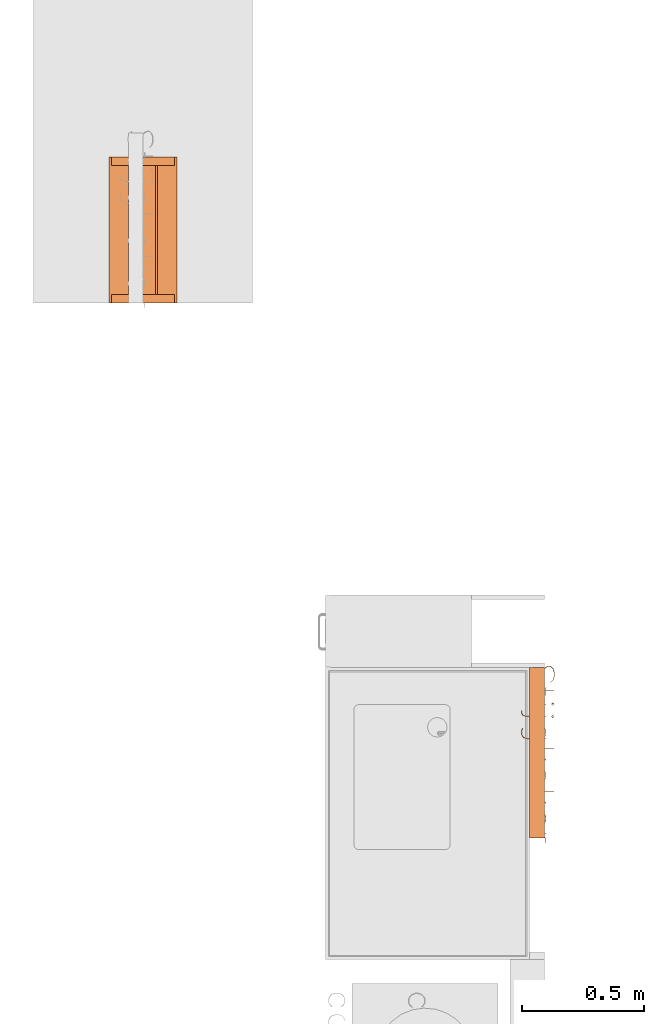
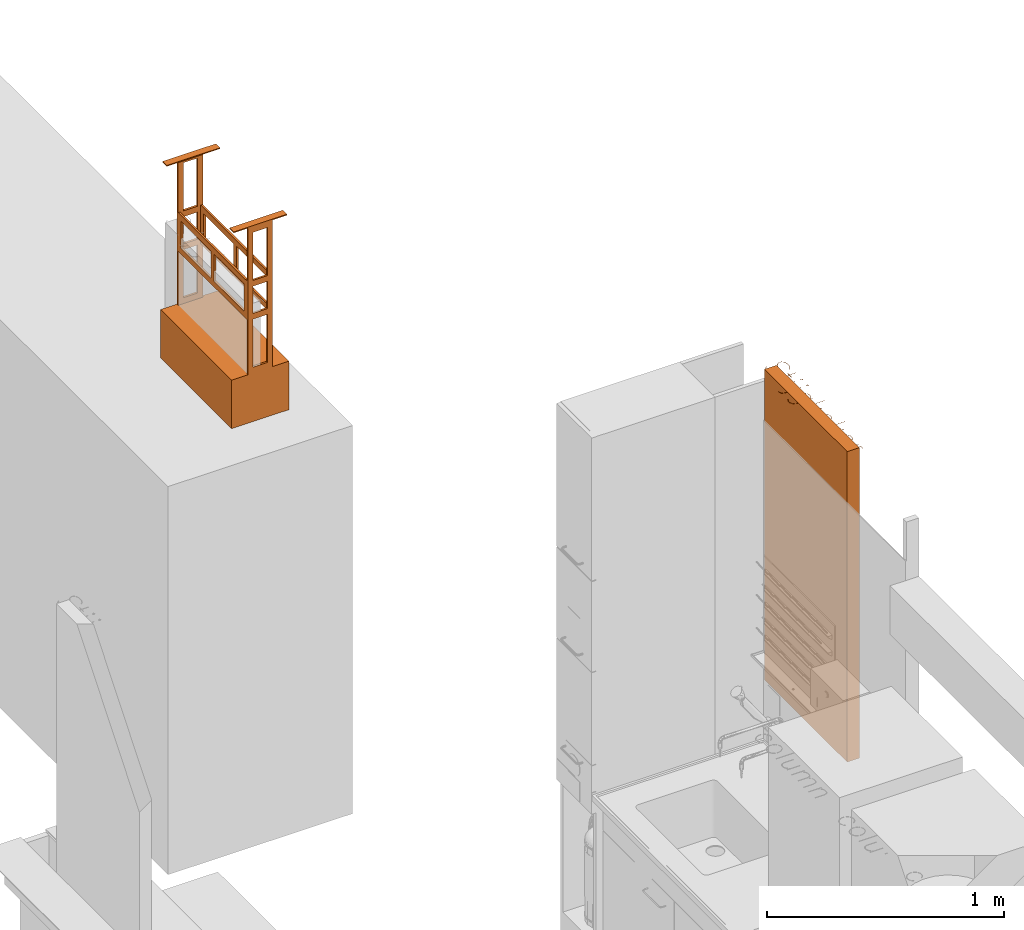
# One storey, part 25 of 43: 2 proxies.
"""IFC2X3 building model written with IfcOpenShell, lengths in metres."""

from ifc_helpers import new_model, entity, si_unit, converted_unit, derived_unit, direction, frame, origin, place, context, subcontext, project, spatial, face_set, faceted_brep, surface_model, source, transform, mapped, material, material_list, type_object, type_shapes, element, save


model = new_model("IFC2X3")

# Units and contexts
model_context = context("Model", 3, precision=1e-05, world=origin(), true_north=direction((6.12303176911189e-17, 1.0)))
body_context = subcontext(model_context, "Body", "Model", "MODEL_VIEW")
ifc_project = project(units=[si_unit("LENGTHUNIT", "METRE"), si_unit("AREAUNIT", "SQUARE_METRE"), si_unit("VOLUMEUNIT", "CUBIC_METRE"), converted_unit("PLANEANGLEUNIT", "DEGREE", entity("IfcRatioMeasure", 0.0174532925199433), si_unit("PLANEANGLEUNIT", "RADIAN"), dimensions=[0, 0, 0, 0, 0, 0, 0]), si_unit("MASSUNIT", "GRAM", prefix="KILO"), derived_unit("MASSDENSITYUNIT", [(si_unit("MASSUNIT", "GRAM", prefix="KILO"), 1), (si_unit("LENGTHUNIT", "METRE"), -3)]), derived_unit("MOMENTOFINERTIAUNIT", [(si_unit("LENGTHUNIT", "METRE"), 4)]), si_unit("TIMEUNIT", "SECOND"), si_unit("FREQUENCYUNIT", "HERTZ"), si_unit("THERMODYNAMICTEMPERATUREUNIT", "DEGREE_CELSIUS"), derived_unit("THERMALTRANSMITTANCEUNIT", [(si_unit("MASSUNIT", "GRAM", prefix="KILO"), 1), (si_unit("THERMODYNAMICTEMPERATUREUNIT", "KELVIN"), -1), (si_unit("TIMEUNIT", "SECOND"), -3)]), derived_unit("VOLUMETRICFLOWRATEUNIT", [(si_unit("LENGTHUNIT", "METRE"), 3), (si_unit("TIMEUNIT", "SECOND"), -1)]), si_unit("ELECTRICCURRENTUNIT", "AMPERE"), si_unit("ELECTRICVOLTAGEUNIT", "VOLT"), si_unit("POWERUNIT", "WATT"), si_unit("FORCEUNIT", "NEWTON", prefix="KILO"), si_unit("ILLUMINANCEUNIT", "LUX"), si_unit("LUMINOUSFLUXUNIT", "LUMEN"), si_unit("LUMINOUSINTENSITYUNIT", "CANDELA"), derived_unit("USERDEFINED", [(si_unit("MASSUNIT", "GRAM", prefix="KILO"), -1), (si_unit("LENGTHUNIT", "METRE"), -2), (si_unit("TIMEUNIT", "SECOND"), 3), (si_unit("LUMINOUSFLUXUNIT", "LUMEN"), 1)]), derived_unit("LINEARVELOCITYUNIT", [(si_unit("LENGTHUNIT", "METRE"), 1), (si_unit("TIMEUNIT", "SECOND"), -1)]), si_unit("PRESSUREUNIT", "PASCAL"), derived_unit("USERDEFINED", [(si_unit("LENGTHUNIT", "METRE"), -2), (si_unit("MASSUNIT", "GRAM", prefix="KILO"), 1), (si_unit("TIMEUNIT", "SECOND"), -2)]), derived_unit("LINEARFORCEUNIT", [(si_unit("MASSUNIT", "GRAM", prefix="KILO"), 1), (si_unit("LENGTHUNIT", "METRE"), 1), (si_unit("TIMEUNIT", "SECOND"), -2), (si_unit("LENGTHUNIT", "METRE"), -1)]), derived_unit("PLANARFORCEUNIT", [(si_unit("MASSUNIT", "GRAM", prefix="KILO"), 1), (si_unit("LENGTHUNIT", "METRE"), 1), (si_unit("TIMEUNIT", "SECOND"), -2), (si_unit("LENGTHUNIT", "METRE"), -2)])], contexts=[model_context])

# Site, building, storey
site_placement = place(None, origin())
site = spatial("IfcSite", under=ifc_project, at=site_placement, Name="Default", CompositionType="ELEMENT")
building_placement = place(site_placement, origin())
building = spatial("IfcBuilding", under=site, at=building_placement, CompositionType="ELEMENT")
storey_placement = place(building_placement, frame((0.0, 0.0, 3.0)))
storey = spatial("IfcBuildingStorey", under=building, at=storey_placement, Name="01 OG", CompositionType="ELEMENT", Elevation=3.0)

# Proxies
ifc_material_1 = material(Name="dh_Weiß")
ifc_material_2 = material(Name="dh_EZ blau")
ifc_material_list = material_list([ifc_material_2, ifc_material_1])
building_element_proxy_type_1 = type_object("IfcBuildingElementProxyType", Name="dh_Doppel_ MEK:DMEK 60", PredefinedType="NOTDEFINED", material=ifc_material_list)
shared_shape_1 = source(origin(), body_context, "Body", "Brep", [
    faceted_brep([(0.00999999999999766, 0.2, 1.00500000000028), (0.00999999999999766, 0.0800000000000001, 1.00500000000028), (0.00999999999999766, 0.0800000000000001, 0.727500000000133), (0.00999999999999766, 0.0899999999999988, 0.727500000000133), (0.00999999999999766, 0.0899999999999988, 0.527500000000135), (0.00999999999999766, 0.0800000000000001, 0.527500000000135), (0.00999999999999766, 0.0800000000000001, 0.249999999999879), (0.00999999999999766, 0.2, 0.249999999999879), (0.00999999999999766, 0.2, 0.527500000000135), (0.00999999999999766, 0.189999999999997, 0.527500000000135), (0.00999999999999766, 0.189999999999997, 0.727500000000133), (0.00999999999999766, 0.2, 0.727500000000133), (0.00999999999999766, 0.175, 0.975000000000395), (0.00999999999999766, 0.175, 0.727500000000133), (0.00999999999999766, 0.105, 0.727500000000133), (0.00999999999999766, 0.105, 0.975000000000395), (0.00999999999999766, 0.175, 0.527500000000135), (0.00999999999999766, 0.175, 0.27999999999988), (0.00999999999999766, 0.105, 0.279999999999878), (0.00999999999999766, 0.105, 0.527500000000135), (0.00999999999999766, 0.175000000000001, 0.697500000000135), (0.00999999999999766, 0.175000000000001, 0.557500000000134), (0.00999999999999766, 0.105000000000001, 0.557500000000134), (0.00999999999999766, 0.105000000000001, 0.697500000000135), (0.0, 0.2, 1.00500000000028), (0.0, 0.2, 0.249999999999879), (0.0, 0.0800000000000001, 0.249999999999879), (0.0, 0.0800000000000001, 1.00500000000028), (0.0, 0.175, 0.975000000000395), (0.0, 0.105, 0.975000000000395), (0.0, 0.105, 0.727500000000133), (0.0, 0.175, 0.727500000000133), (0.0, 0.175, 0.527500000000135), (0.0, 0.105, 0.527500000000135), (0.0, 0.105, 0.279999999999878), (0.0, 0.175, 0.27999999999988), (0.0, 0.175000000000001, 0.697500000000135), (0.0, 0.105000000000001, 0.697500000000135), (0.0, 0.105000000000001, 0.557500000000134), (0.0, 0.175000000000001, 0.557500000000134), (0.589999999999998, 0.0800000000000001, 0.527500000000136), (0.589999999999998, 0.0800000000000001, 0.249999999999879), (0.6, 0.0800000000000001, 0.249999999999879), (0.6, 0.0800000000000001, 1.00500000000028), (0.589999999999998, 0.0800000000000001, 1.00500000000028), (0.589999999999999, 0.0800000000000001, 0.727500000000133), (0.312500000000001, 0.0800000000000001, 0.697500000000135), (0.564999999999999, 0.0800000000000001, 0.697500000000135), (0.564999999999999, 0.0800000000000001, 0.557500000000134), (0.312500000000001, 0.0800000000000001, 0.557500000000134), (0.0349999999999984, 0.0800000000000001, 0.697500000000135), (0.287500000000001, 0.0800000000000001, 0.697500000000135), (0.287500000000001, 0.0800000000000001, 0.557500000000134), (0.0349999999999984, 0.0800000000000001, 0.557500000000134), (0.589999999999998, 0.2, 0.727500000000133), (0.589999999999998, 0.2, 1.00500000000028), (0.6, 0.2, 1.00500000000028), (0.6, 0.2, 0.249999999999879), (0.589999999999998, 0.2, 0.249999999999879), (0.589999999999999, 0.2, 0.527500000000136), (0.0349999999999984, 0.2, 0.697500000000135), (0.0349999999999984, 0.2, 0.557500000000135), (0.287500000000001, 0.2, 0.557500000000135), (0.287500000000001, 0.2, 0.697500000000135), (0.312500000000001, 0.2, 0.697500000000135), (0.312500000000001, 0.2, 0.557500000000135), (0.564999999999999, 0.2, 0.557500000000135), (0.564999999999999, 0.2, 0.697500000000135), (0.589999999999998, 0.0899999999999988, 0.727500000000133), (0.589999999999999, 0.0899999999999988, 0.527500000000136), (0.312500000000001, 0.0899999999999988, 0.697500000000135), (0.312500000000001, 0.0899999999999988, 0.557500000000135), (0.564999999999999, 0.0899999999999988, 0.557500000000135), (0.564999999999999, 0.0899999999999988, 0.697500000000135), (0.0349999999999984, 0.0899999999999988, 0.697500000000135), (0.0349999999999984, 0.0899999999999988, 0.557500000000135), (0.287500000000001, 0.0899999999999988, 0.557500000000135), (0.287500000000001, 0.0899999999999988, 0.697500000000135), (0.589999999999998, 0.189999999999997, 0.527500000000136), (0.589999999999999, 0.189999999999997, 0.727500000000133), (0.0349999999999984, 0.189999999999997, 0.697500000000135), (0.287500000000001, 0.189999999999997, 0.697500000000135), (0.287500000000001, 0.189999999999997, 0.557500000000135), (0.0349999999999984, 0.189999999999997, 0.557500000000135), (0.312500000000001, 0.189999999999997, 0.697500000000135), (0.564999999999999, 0.189999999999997, 0.697500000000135), (0.564999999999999, 0.189999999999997, 0.557500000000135), (0.312500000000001, 0.189999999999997, 0.557500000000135), (0.6, 0.175, 0.975000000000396), (0.6, 0.175, 0.727500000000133), (0.6, 0.105, 0.727500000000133), (0.6, 0.105, 0.975000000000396), (0.6, 0.175000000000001, 0.697500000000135), (0.6, 0.175000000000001, 0.557500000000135), (0.6, 0.105000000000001, 0.557500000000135), (0.6, 0.105000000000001, 0.697500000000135), (0.6, 0.105, 0.279999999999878), (0.6, 0.105, 0.527500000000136), (0.6, 0.175, 0.527500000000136), (0.6, 0.175, 0.27999999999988), (0.589999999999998, 0.175, 0.975000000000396), (0.589999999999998, 0.105, 0.975000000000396), (0.589999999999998, 0.105, 0.727500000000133), (0.589999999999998, 0.175, 0.727500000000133), (0.589999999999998, 0.175000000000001, 0.697500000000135), (0.589999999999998, 0.105000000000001, 0.697500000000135), (0.589999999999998, 0.105000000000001, 0.557500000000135), (0.589999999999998, 0.175000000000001, 0.557500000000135), (0.589999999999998, 0.105, 0.279999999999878), (0.589999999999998, 0.175, 0.27999999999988), (0.589999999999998, 0.175, 0.527500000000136), (0.589999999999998, 0.105, 0.527500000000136)], [[[0, 1, 2, 3, 4, 5, 6, 7, 8, 9, 10, 11], [12, 13, 14, 15], [16, 17, 18, 19], [20, 21, 22, 23]], [[24, 25, 26, 27], [28, 29, 30, 31], [32, 33, 34, 35], [36, 37, 38, 39]], [[1, 0, 24, 27]], [[27, 26, 6, 5, 40, 41, 42, 43, 44, 45, 2, 1], [46, 47, 48, 49], [50, 51, 52, 53]], [[7, 6, 26, 25]], [[25, 24, 0, 11, 54, 55, 56, 57, 58, 59, 8, 7], [60, 61, 62, 63], [64, 65, 66, 67]], [[13, 12, 28, 31]], [[14, 13, 31, 30]], [[15, 14, 30, 29]], [[12, 15, 29, 28]], [[17, 16, 32, 35]], [[18, 17, 35, 34]], [[19, 18, 34, 33]], [[16, 19, 33, 32]], [[21, 20, 36, 39]], [[22, 21, 39, 38]], [[23, 22, 38, 37]], [[20, 23, 37, 36]], [[3, 68, 69, 4], [70, 71, 72, 73], [74, 75, 76, 77]], [[40, 5, 4, 69]], [[2, 45, 68, 3]], [[47, 46, 70, 73]], [[48, 47, 73, 72]], [[49, 48, 72, 71]], [[46, 49, 71, 70]], [[51, 50, 74, 77]], [[52, 51, 77, 76]], [[53, 52, 76, 75]], [[50, 53, 75, 74]], [[9, 78, 79, 10], [80, 81, 82, 83], [84, 85, 86, 87]], [[78, 9, 8, 59]], [[10, 79, 54, 11]], [[81, 80, 60, 63]], [[82, 81, 63, 62]], [[83, 82, 62, 61]], [[80, 83, 61, 60]], [[85, 84, 64, 67]], [[86, 85, 67, 66]], [[87, 86, 66, 65]], [[84, 87, 65, 64]], [[42, 57, 56, 43], [88, 89, 90, 91], [92, 93, 94, 95], [96, 97, 98, 99]], [[44, 55, 54, 79, 78, 59, 58, 41, 40, 69, 68, 45], [100, 101, 102, 103], [104, 105, 106, 107], [108, 109, 110, 111]], [[57, 42, 41, 58]], [[43, 56, 55, 44]], [[89, 88, 100, 103]], [[90, 89, 103, 102]], [[91, 90, 102, 101]], [[88, 91, 101, 100]], [[93, 92, 104, 107]], [[94, 93, 107, 106]], [[95, 94, 106, 105]], [[92, 95, 105, 104]], [[97, 96, 108, 111]], [[98, 97, 111, 110]], [[99, 98, 110, 109]], [[96, 99, 109, 108]]]),
    faceted_brep([(0.564999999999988, 0.0100000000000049, 1.01000000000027), (0.600000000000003, 0.0100000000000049, 1.01000000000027), (0.600000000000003, 0.270000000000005, 1.01000000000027), (0.564999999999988, 0.270000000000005, 1.01000000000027), (0.564999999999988, 0.0100000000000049, 1.00500000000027), (0.600000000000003, 0.0100000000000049, 1.00500000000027), (0.600000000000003, 0.270000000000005, 1.00500000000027), (0.564999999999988, 0.270000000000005, 1.00500000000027)], [[[0, 1, 2, 3]], [[1, 0, 4, 5]], [[2, 1, 5, 6]], [[3, 2, 6, 7]], [[0, 3, 7, 4]], [[4, 7, 6, 5]]]),
    faceted_brep([(0.034999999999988, 0.270000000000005, 1.00500000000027), (0.034999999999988, 0.0100000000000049, 1.00500000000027), (0.0, 0.0100000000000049, 1.00500000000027), (0.0, 0.270000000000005, 1.00500000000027), (0.0, 0.270000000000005, 1.01000000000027), (0.034999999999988, 0.270000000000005, 1.01000000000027), (0.0, 0.0100000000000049, 1.01000000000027), (0.034999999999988, 0.0100000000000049, 1.01000000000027)], [[[0, 1, 2, 3]], [[4, 5, 0, 3]], [[6, 4, 3, 2]], [[7, 6, 2, 1]], [[5, 7, 1, 0]], [[5, 4, 6, 7]]]),
    faceted_brep([(0.0, 0.2, 0.249999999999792), (0.0100000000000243, 0.2, 0.249999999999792), (0.590000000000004, 0.2, 0.249999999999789), (0.600000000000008, 0.2, 0.249999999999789), (0.600000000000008, 0.28, 0.249999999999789), (0.0, 0.28, 0.249999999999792), (0.0, 0.2, 0.244999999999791), (0.0, 0.28, 0.244999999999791), (0.600000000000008, 0.28, 0.244999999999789), (0.600000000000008, 0.2, 0.244999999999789), (0.590000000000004, 0.2, 0.244999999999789), (0.0100000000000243, 0.2, 0.244999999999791)], [[[0, 1, 2, 3, 4, 5]], [[6, 7, 8, 9, 10, 11]], [[0, 5, 7, 6]], [[5, 4, 8, 7]], [[4, 3, 9, 8]], [[3, 2, 10, 9]], [[2, 1, 11, 10]], [[1, 0, 6, 11]]]),
    faceted_brep([(0.6, 0.280000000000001, 0.245000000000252), (0.6, 0.200000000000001, 0.245000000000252), (0.6, 0.200000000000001, 0.00500000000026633), (0.6, 0.280000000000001, 0.00500000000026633), (0.0, 0.280000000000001, 0.245000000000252), (0.0, 0.280000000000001, 0.00500000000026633), (0.0, 0.200000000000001, 0.00500000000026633), (0.0, 0.200000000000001, 0.245000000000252)], [[[0, 1, 2, 3]], [[4, 5, 6, 7]], [[0, 3, 5, 4]], [[3, 2, 6, 5]], [[2, 1, 7, 6]], [[1, 0, 4, 7]]]),
    faceted_brep([(0.600000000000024, 0.08, 0.249999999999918), (0.600000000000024, 0.2, 0.249999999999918), (0.590000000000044, 0.2, 0.249999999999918), (0.590000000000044, 0.08, 0.249999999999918), (0.600000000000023, 0.08, 0.00500000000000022), (0.590000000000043, 0.08, 0.00500000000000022), (0.590000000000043, 0.2, 0.00500000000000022), (0.600000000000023, 0.2, 0.00500000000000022)], [[[0, 1, 2, 3]], [[4, 5, 6, 7]], [[1, 0, 4, 7]], [[2, 1, 7, 6]], [[3, 2, 6, 5]], [[0, 3, 5, 4]]]),
    faceted_brep([(0.0100000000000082, 0.2, 0.24999999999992), (0.0100000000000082, 0.08, 0.24999999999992), (0.0100000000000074, 0.08, 0.00500000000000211), (0.0100000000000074, 0.2, 0.00500000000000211), (0.0, 0.2, 0.24999999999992), (0.0, 0.2, 0.00500000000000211), (0.0, 0.08, 0.24999999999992), (0.0, 0.08, 0.00500000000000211)], [[[0, 1, 2, 3]], [[4, 0, 3, 5]], [[6, 4, 5, 7]], [[1, 6, 7, 2]], [[2, 7, 5, 3]], [[1, 0, 4, 6]]]),
    faceted_brep([(0.590000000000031, 0.08, 0.249999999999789), (0.590000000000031, 0.2, 0.249999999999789), (0.0100000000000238, 0.2, 0.249999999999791), (0.0100000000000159, 0.08, 0.249999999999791), (0.590000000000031, 0.08, 0.244999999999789), (0.0100000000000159, 0.08, 0.244999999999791), (0.0100000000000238, 0.2, 0.244999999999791), (0.590000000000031, 0.2, 0.244999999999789)], [[[0, 1, 2, 3]], [[4, 5, 6, 7]], [[1, 0, 4, 7]], [[2, 1, 7, 6]], [[3, 2, 6, 5]], [[0, 3, 5, 4]]]),
    faceted_brep([(0.0, 0.0, 0.0), (0.0, 0.0799999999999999, 0.0), (0.0, 0.28, 0.0), (0.600000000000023, 0.28, 0.0), (0.600000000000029, 0.0799999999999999, 0.0), (0.600000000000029, 0.0, 0.0), (0.0, 0.0, 0.00500000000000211), (0.600000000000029, 0.0, 0.00500000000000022), (0.600000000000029, 0.0799999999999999, 0.00500000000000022), (0.600000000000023, 0.28, 0.00500000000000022), (0.0, 0.28, 0.00500000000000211), (0.0, 0.0799999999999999, 0.00500000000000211)], [[[0, 1, 2, 3, 4, 5]], [[6, 7, 8, 9, 10, 11]], [[7, 6, 0, 5]], [[8, 7, 5, 4]], [[9, 8, 4, 3]], [[10, 9, 3, 2]], [[11, 10, 2, 1]], [[6, 11, 1, 0]]]),
    faceted_brep([(0.0, 0.08, 0.249999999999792), (0.0, 0.0, 0.249999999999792), (0.600000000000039, 0.0, 0.249999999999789), (0.600000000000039, 0.08, 0.249999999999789), (0.590000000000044, 0.08, 0.249999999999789), (0.0100000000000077, 0.08, 0.249999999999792), (0.0, 0.08, 0.244999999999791), (0.0100000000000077, 0.08, 0.244999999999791), (0.590000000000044, 0.08, 0.244999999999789), (0.600000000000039, 0.08, 0.244999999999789), (0.600000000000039, 0.0, 0.244999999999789), (0.0, 0.0, 0.244999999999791)], [[[0, 1, 2, 3, 4, 5]], [[6, 7, 8, 9, 10, 11]], [[1, 0, 6, 11]], [[2, 1, 11, 10]], [[3, 2, 10, 9]], [[4, 3, 9, 8]], [[5, 4, 8, 7]], [[0, 5, 7, 6]]]),
    faceted_brep([(0.6, 0.0, 0.24500000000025), (0.6, 0.0, 0.00500000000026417), (0.6, 0.08, 0.00500000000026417), (0.6, 0.08, 0.24500000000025), (0.0, 0.0, 0.24500000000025), (0.0, 0.08, 0.24500000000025), (0.0, 0.08, 0.00500000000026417), (0.0, 0.0, 0.00500000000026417)], [[[0, 1, 2, 3]], [[4, 5, 6, 7]], [[1, 0, 4, 7]], [[2, 1, 7, 6]], [[3, 2, 6, 5]], [[0, 3, 5, 4]]]),
])
type_shapes(building_element_proxy_type_1, [shared_shape_1])
proxy_1_placement = place(storey_placement, frame((15.54, 17.5240000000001, 2.88999999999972), z_axis=(0.0, 0.0, 1.0), x_axis=(0.0, 1.0, 0.0)))
element("IfcBuildingElementProxy", 1, at=proxy_1_placement, inside=storey, type_object=building_element_proxy_type_1, material=ifc_material_1, Name="dh_Doppel_ MEK:DMEK 60", ObjectType="dh_Doppel_ MEK:DMEK 60", context=body_context, shape_type="MappedRepresentation", body=[
    mapped(shared_shape_1, transform((0.0, 0.0, 0.0), scale=1.0)),
])
ifc_material_3 = material(Name="dh_Stellfläche")
building_element_proxy_type_2 = type_object("IfcBuildingElementProxyType", Name="dh_Gerät_Stellfläche Bestand:Nutzergerät", PredefinedType="NOTDEFINED", material=ifc_material_3)
shared_shape_2 = source(origin(), body_context, "Body", "SurfaceModel", [
    surface_model("IfcFaceBasedSurfaceModel", [(-0.355113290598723, -0.0453817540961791, 1.605), (-0.356700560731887, -0.0470458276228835, 1.605), (-0.346946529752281, -0.0567998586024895, 1.605), (-0.332277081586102, -0.0616384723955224, 1.605), (-0.31294822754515, -0.0616384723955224, 1.605), (-0.298278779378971, -0.0567998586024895, 1.605), (-0.288166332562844, -0.0466618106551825, 1.605), (-0.288166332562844, -0.0314547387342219, 1.605), (-0.293081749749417, -0.0214446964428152, 1.605), (-0.298073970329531, -0.0163500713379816, 1.605), (-0.307904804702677, -0.0115114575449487, 1.605), (-0.336450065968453, -0.00188543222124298, 1.605), (-0.345692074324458, 0.00295318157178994, 1.605), (-0.35019787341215, 0.00745898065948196, 1.605), (-0.354857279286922, 0.0166497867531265, 1.605), (-0.354857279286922, 0.0255845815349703, 1.605), (-0.345820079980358, 0.0347241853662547, 1.605), (-0.331944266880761, 0.0393579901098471, 1.605), (-0.313204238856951, 0.0393579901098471, 1.605), (-0.299328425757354, 0.0347241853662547, 1.605), (-0.290112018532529, 0.0252005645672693, 1.605), (-0.288447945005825, 0.0268646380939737, 1.605), (-0.298278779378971, 0.0366186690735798, 1.605), (-0.31294822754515, 0.041585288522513, 1.605), (-0.332277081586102, 0.041585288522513, 1.605), (-0.346946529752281, 0.0366186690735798, 1.605), (-0.356982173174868, 0.0264550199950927, 1.605), (-0.356982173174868, 0.016112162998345, 1.605), (-0.352117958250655, 0.00610212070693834, 1.605), (-0.347074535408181, 0.00100749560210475, 1.605), (-0.337243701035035, -0.00383111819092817, 1.605), (-0.308698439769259, -0.0134571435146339, 1.605), (-0.299456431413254, -0.0182957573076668, 1.605), (-0.294950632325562, -0.0228015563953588, 1.605), (-0.29036802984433, -0.0320691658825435, 1.605), (-0.29036802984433, -0.0457657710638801, 1.605), (-0.299328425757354, -0.0549053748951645, 1.605), (-0.313204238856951, -0.0595647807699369, 1.605), (-0.331944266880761, -0.0595647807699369, 1.605), (-0.345820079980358, -0.0549053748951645, 1.605), (-0.230691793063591, -0.0616384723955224, 1.605), (-0.230691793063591, -0.0595647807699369, 1.605), (-0.239908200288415, -0.0595647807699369, 1.605), (-0.248740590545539, -0.055084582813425, 1.605), (-0.253399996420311, -0.0413879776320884, 1.605), (-0.253399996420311, 0.00533408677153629, 1.605), (-0.235402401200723, 0.00533408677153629, 1.605), (-0.235402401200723, 0.00745898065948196, 1.605), (-0.253399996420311, 0.00745898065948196, 1.605), (-0.253399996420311, 0.0399468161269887, 1.605), (-0.255576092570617, 0.0399468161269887, 1.605), (-0.255576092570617, 0.00745898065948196, 1.605), (-0.268735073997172, 0.00745898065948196, 1.605), (-0.268735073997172, 0.00533408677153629, 1.605), (-0.255576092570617, 0.00533408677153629, 1.605), (-0.255576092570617, -0.0416439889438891, 1.605), (-0.250660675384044, -0.0566974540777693, 1.605), (-0.240445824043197, -0.0616384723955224, 1.605), (-0.201327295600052, -0.0599999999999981, 1.605), (-0.199202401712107, -0.0599999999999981, 1.605), (-0.199202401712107, 0.00666534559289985, 1.605), (-0.201327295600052, 0.00666534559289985, 1.605), (-0.173294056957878, -0.0922318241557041, 1.605), (-0.173294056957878, -0.0944079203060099, 1.605), (-0.163744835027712, -0.0944079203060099, 1.605), (-0.153581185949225, -0.0893644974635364, 1.605), (-0.148665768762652, -0.0744390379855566, 1.605), (-0.148665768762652, 0.00651173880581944, 1.605), (-0.150867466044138, 0.00651173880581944, 1.605), (-0.150867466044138, -0.0741574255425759, 1.605), (-0.15550127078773, -0.087700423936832, 1.605), (-0.164333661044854, -0.0922318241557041, 1.605), (-0.100049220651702, -0.0875980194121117, 1.605), (-0.101175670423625, -0.0895181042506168, 1.605), (-0.0913448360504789, -0.0944079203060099, 1.605), (-0.0765473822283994, -0.0944079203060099, 1.605), (-0.066639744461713, -0.0895181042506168, 1.605), (-0.0615963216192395, -0.0843466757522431, 1.605), (-0.0566809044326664, -0.069728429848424, 1.605), (-0.0566809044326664, 0.00615332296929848, 1.605), (-0.0588826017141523, 0.00615332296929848, 1.605), (-0.0588826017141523, -0.00552079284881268, 1.605), (-0.066639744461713, 0.0023387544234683, 1.605), (-0.0765473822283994, 0.00717736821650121, 1.605), (-0.0913448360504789, 0.00717736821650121, 1.605), (-0.101303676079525, 0.0023387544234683, 1.605), (-0.111057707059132, -0.00756888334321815, 1.605), (-0.115973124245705, -0.0221871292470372, 1.605), (-0.115973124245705, -0.0319923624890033, 1.605), (-0.111057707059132, -0.0465850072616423, 1.605), (-0.101303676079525, -0.0564926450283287, 1.605), (-0.0913448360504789, -0.0612544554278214, 1.605), (-0.0765473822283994, -0.0612544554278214, 1.605), (-0.066639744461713, -0.0564926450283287, 1.605), (-0.0588826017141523, -0.0485818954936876, 1.605), (-0.0588826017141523, -0.0694724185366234, 1.605), (-0.0634652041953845, -0.0832970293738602, 1.605), (-0.0679710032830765, -0.0875980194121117, 1.605), (-0.0770594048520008, -0.0922318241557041, 1.605), (-0.0908072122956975, -0.0922318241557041, 1.605), (-0.0588826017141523, -0.0452537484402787, 1.605), (-0.0679710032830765, -0.0542909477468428, 1.605), (-0.0770594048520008, -0.0588735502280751, 1.605), (-0.0908072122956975, -0.0588735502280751, 1.605), (-0.0999212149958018, -0.0542909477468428, 1.605), (-0.109214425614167, -0.0451257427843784, 1.605), (-0.113797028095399, -0.0312499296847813, 1.605), (-0.113797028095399, -0.0220079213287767, 1.605), (-0.109214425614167, -0.00813210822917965, 1.605), (-0.0999212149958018, 0.000956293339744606, 1.605), (-0.0908072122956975, 0.00561569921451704, 1.605), (-0.0770594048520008, 0.00561569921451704, 1.605), (-0.0679710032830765, 0.000956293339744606, 1.605), (-0.0588826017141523, -0.00800410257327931, 1.605), (-0.0178183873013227, -0.0599999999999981, 1.605), (-0.0156934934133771, -0.0599999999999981, 1.605), (-0.0156934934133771, -0.0413367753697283, 1.605), (0.00230410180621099, -0.0235439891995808, 1.605), (0.0347919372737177, -0.0599999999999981, 1.605), (0.0364560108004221, -0.0587455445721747, 1.605), (0.0037633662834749, -0.0214958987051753, 1.605), (0.0316685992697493, 0.00625572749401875, 1.605), (0.0300813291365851, 0.00784299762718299, 1.605), (-0.0156934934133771, -0.0379574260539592, 1.605), (-0.0156934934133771, 0.0399468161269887, 1.605), (-0.0178183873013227, 0.0399468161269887, 1.605), (0.120146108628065, -0.0469178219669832, 1.605), (0.125061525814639, -0.0322227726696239, 1.605), (0.125061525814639, -0.0223663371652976, 1.605), (0.120146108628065, -0.00767128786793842, 1.605), (0.110315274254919, 0.00231315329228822, 1.605), (0.100407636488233, 0.00717736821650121, 1.605), (0.0856101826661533, 0.00717736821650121, 1.605), (0.0756513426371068, 0.00231315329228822, 1.605), (0.0658973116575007, -0.00767128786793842, 1.605), (0.0609818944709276, -0.0223663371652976, 1.605), (0.0609818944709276, -0.0322227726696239, 1.605), (0.0658973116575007, -0.0469178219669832, 1.605), (0.0756513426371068, -0.0568510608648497, 1.605), (0.0856101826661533, -0.0616384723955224, 1.605), (0.100407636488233, -0.0616384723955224, 1.605), (0.110315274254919, -0.0568510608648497, 1.605), (0.11820042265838, -0.0451257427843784, 1.605), (0.108984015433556, -0.0542909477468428, 1.605), (0.0998956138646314, -0.0588735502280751, 1.605), (0.0861478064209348, -0.0588735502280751, 1.605), (0.0770338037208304, -0.0542909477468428, 1.605), (0.0677405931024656, -0.0451257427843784, 1.605), (0.0631579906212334, -0.0312499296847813, 1.605), (0.0631579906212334, -0.0220079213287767, 1.605), (0.0677405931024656, -0.00813210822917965, 1.605), (0.0770338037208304, 0.000956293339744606, 1.605), (0.0861478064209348, 0.00561569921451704, 1.605), (0.0998956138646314, 0.00561569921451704, 1.605), (0.108984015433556, 0.000956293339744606, 1.605), (0.11820042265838, -0.00813210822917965, 1.605), (0.122859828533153, -0.0220079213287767, 1.605), (0.122859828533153, -0.0312499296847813, 1.605), (0.15913663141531, -0.0599999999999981, 1.605), (0.161261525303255, -0.0599999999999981, 1.605), (0.161261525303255, -0.0413367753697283, 1.605), (0.179259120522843, -0.0235439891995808, 1.605), (0.21174695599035, -0.0599999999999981, 1.605), (0.213411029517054, -0.0587455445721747, 1.605), (0.180718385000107, -0.0214958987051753, 1.605), (0.208623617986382, 0.00625572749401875, 1.605), (0.207036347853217, 0.00784299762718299, 1.605), (0.161261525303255, -0.0379574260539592, 1.605), (0.161261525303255, 0.0399468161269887, 1.605), (0.15913663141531, 0.0399468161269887, 1.605), (0.296973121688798, -0.0471994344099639, 1.605), (0.295309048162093, -0.0455353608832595, 1.605), (0.285939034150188, -0.0549821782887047, 1.605), (0.276850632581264, -0.0595647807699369, 1.605), (0.263102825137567, -0.0595647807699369, 1.605), (0.253988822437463, -0.0549821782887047, 1.605), (0.244695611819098, -0.0457913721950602, 1.605), (0.240113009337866, -0.0318899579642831, 1.605), (0.240113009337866, -0.0236463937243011, 1.605), (0.297229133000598, -0.0236463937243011, 1.605), (0.297229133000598, -0.0127147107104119, 1.605), (0.292313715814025, -0.00273026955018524, 1.605), (0.287270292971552, 0.00231315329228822, 1.605), (0.277362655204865, 0.00717736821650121, 1.605), (0.262565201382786, 0.00717736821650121, 1.605), (0.252606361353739, 0.00231315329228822, 1.605), (0.242852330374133, -0.00767128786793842, 1.605), (0.23793691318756, -0.0223663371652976, 1.605), (0.23793691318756, -0.0322227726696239, 1.605), (0.242852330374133, -0.0469178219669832, 1.605), (0.252606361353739, -0.0568510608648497, 1.605), (0.262565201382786, -0.0616384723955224, 1.605), (0.277362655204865, -0.0616384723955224, 1.605), (0.287270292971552, -0.0568510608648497, 1.605), (0.240522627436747, -0.0214446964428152, 1.605), (0.244695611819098, -0.00874653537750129, 1.605), (0.253988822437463, 0.000341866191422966, 1.605), (0.263102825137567, 0.0050012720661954, 1.605), (0.276850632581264, 0.0050012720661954, 1.605), (0.285939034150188, 0.000341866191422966, 1.605), (0.29044483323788, -0.00416393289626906, 1.605), (0.295027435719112, -0.0132779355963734, 1.605), (0.295027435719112, -0.0214446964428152, 1.605), (0.331176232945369, -0.0599999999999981, 1.605), (0.333301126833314, -0.0599999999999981, 1.605), (0.333301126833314, -0.0223407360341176, 1.605), (0.337960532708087, -0.00856732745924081, 1.605), (0.347202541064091, 0.000469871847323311, 1.605), (0.356342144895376, 0.00507807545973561, 1.605), (0.370371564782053, 0.00507807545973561, 1.605), (0.370371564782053, 0.00717736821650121, 1.605), (0.355753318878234, 0.00717736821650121, 1.605), (0.345871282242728, 0.00236435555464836, 1.605), (0.336040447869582, -0.00751768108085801, 1.605), (0.333301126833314, -0.0156076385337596, 1.605), (0.333301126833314, 0.00630692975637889, 1.605), (0.331176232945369, 0.00630692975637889, 1.605), (-0.149792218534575, 0.0291175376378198, 1.605), (-0.143494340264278, 0.0353386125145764, 1.605), (-0.149792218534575, 0.041585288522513, 1.605), (-0.156038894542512, 0.0353386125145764, 1.605), (-0.149792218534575, 0.0319592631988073, 1.605), (-0.153043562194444, 0.035210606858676, 1.605), (-0.149792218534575, 0.0384875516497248, 1.605), (-0.146464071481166, 0.035210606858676, 1.605), (-0.20025204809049, 0.0291175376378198, 1.605), (-0.194005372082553, 0.0353386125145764, 1.605), (-0.20025204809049, 0.041585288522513, 1.605), (-0.206498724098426, 0.0353386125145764, 1.605), (-0.20025204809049, 0.0319592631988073, 1.605), (-0.203503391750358, 0.035210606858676, 1.605), (-0.20025204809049, 0.0384875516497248, 1.605), (-0.197000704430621, 0.035210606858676, 1.605), (0.35, 0.0, 1.6), (0.35, -0.06, 1.6), (-0.35, -0.06, 1.6), (-0.35, 0.0, 1.6), (0.35, 0.0, 0.0), (0.35, -0.06, 0.0), (-0.35, -0.06, 0.0), (-0.35, 0.0, 0.0)], [face_set([[[0, 1, 2, 3, 4, 5, 6, 7, 8, 9, 10, 11, 12, 13, 14, 15, 16, 17, 18, 19, 20, 21, 22, 23, 24, 25, 26, 27, 28, 29, 30, 31, 32, 33, 34, 35, 36, 37, 38, 39]]]), face_set([[[40, 41, 42, 43, 44, 45, 46, 47, 48, 49, 50, 51, 52, 53, 54, 55, 56, 57]]]), face_set([[[58, 59, 60, 61]]]), face_set([[[62, 63, 64, 65, 66, 67, 68, 69, 70, 71]]]), face_set([[[72, 73, 74, 75, 76, 77, 78, 79, 80, 81, 82, 83, 84, 85, 86, 87, 88, 89, 90, 91, 92, 93, 94, 95, 96, 97, 98, 99], [100, 101, 102, 103, 104, 105, 106, 107, 108, 109, 110, 111, 112, 113]]]), face_set([[[114, 115, 116, 117, 118, 119, 120, 121, 122, 123, 124, 125]]]), face_set([[[126, 127, 128, 129, 130, 131, 132, 133, 134, 135, 136, 137, 138, 139, 140, 141], [142, 143, 144, 145, 146, 147, 148, 149, 150, 151, 152, 153, 154, 155, 156, 157]]]), face_set([[[158, 159, 160, 161, 162, 163, 164, 165, 166, 167, 168, 169]]]), face_set([[[170, 171, 172, 173, 174, 175, 176, 177, 178, 179, 180, 181, 182, 183, 184, 185, 186, 187, 188, 189, 190, 191, 192, 193], [194, 195, 196, 197, 198, 199, 200, 201, 202]]]), face_set([[[203, 204, 205, 206, 207, 208, 209, 210, 211, 212, 213, 214, 215, 216]]]), face_set([[[217, 218, 219, 220], [221, 222, 223, 224]]]), face_set([[[225, 226, 227, 228], [229, 230, 231, 232]]]), face_set([[[233, 234, 235, 236]], [[237, 238, 239, 240]], [[236, 233, 237, 240]], [[235, 236, 240, 239]], [[234, 238, 239, 235]], [[233, 234, 238, 237]]])]),
])
type_shapes(building_element_proxy_type_2, [shared_shape_2])
proxy_2_placement = place(storey_placement, frame((17.0500000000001, 15.6740000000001, 1.9), z_axis=(0.0, 0.0, 1.0), x_axis=(0.0, -1.0, 0.0)))
element("IfcBuildingElementProxy", 2, at=proxy_2_placement, inside=storey, type_object=building_element_proxy_type_2, material=ifc_material_3, Name="dh_Gerät_Stellfläche Bestand:Nutzergerät", ObjectType="dh_Gerät_Stellfläche Bestand:Nutzergerät", context=body_context, shape_type="MappedRepresentation", body=[
    mapped(shared_shape_2, transform((0.0, 0.0, 0.0), scale=1.0)),
])

save(model, "model.ifc")
